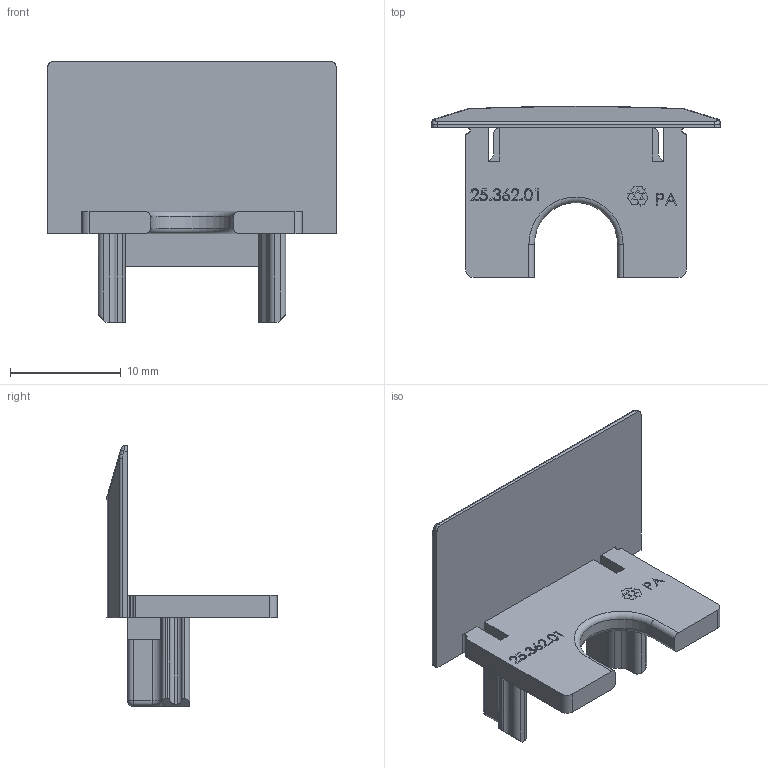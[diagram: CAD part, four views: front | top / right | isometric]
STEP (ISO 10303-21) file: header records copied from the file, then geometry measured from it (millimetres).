
FILE_DESCRIPTION (( 'STEP AP203' ), '1' );
FILE_NAME ('Endkappen_ChannelLine_C2_24.STEP', '2024-11-29T04:50:28', ( '' ), ( '' ), 'SwSTEP 2.0', 'SolidWorks 2023', '' );
FILE_SCHEMA (( 'CONFIG_CONTROL_DESIGN' ));
Length unit declared in the file: millimetre
Products named in the file (1): Endkappen_ChannelLine_C2_24
Bounding box: 26 x 15.4 x 23.5 mm (x, y, z)
Volume: 1193.7 mm3; surface area: 1731.2 mm2
Topology: 1 solids, 1 shells, 285 faces, 772 edges, 502 vertices
Faces by surface type: plane 145, bspline 74, cylinder 58, sphere 4, torus 4
Entity records: 12685 total; most frequent: CARTESIAN_POINT 5914, ORIENTED_EDGE 1540, DIRECTION 1142, EDGE_CURVE 770, VERTEX_POINT 502, VECTOR 498, LINE 498, AXIS2_PLACEMENT_3D 322
